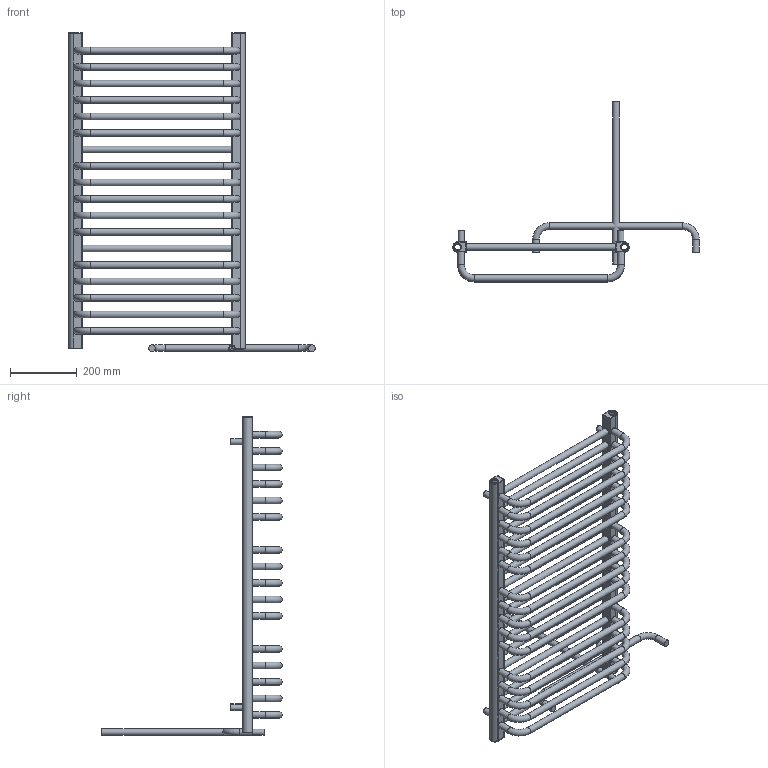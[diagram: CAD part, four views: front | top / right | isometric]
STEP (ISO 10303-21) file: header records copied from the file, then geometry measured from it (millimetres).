
FILE_DESCRIPTION( ( 'Unknown' ), '1' );
FILE_NAME( 'D:/RYSUNKI/RYSUNKI SOLID/SEJWAL/NOWE/2021/MADERA/MADERA.stp', 'Unknown', ( 'Unknown' ), ( 'Unknown' ), 'XStep 1.0', 'Unknown', ' ' );
FILE_SCHEMA( ( 'automotive_design' ) );
Length unit declared in the file: millimetre
Products named in the file (7): Assem1; Profil_glowny_praw; Profil_glowny_lew; Rurka_20x1_2x500_zew; Rurka_20x1_2X450; Dekiel_G1_2; MOCOWANIE
Bounding box: 740 x 541 x 958 mm (x, y, z)
Volume: 4482246.5 mm3; surface area: 2553639.3 mm2
Topology: 50 solids, 50 shells, 446 faces, 1088 edges, 619 vertices
Faces by surface type: cylinder 258, plane 144, torus 44
Full cylindrical faces by diameter (mm): 15 x5, 17.6 x19, 18 x5, 18.631 x5, 20 x211
Entity records: 4486 total; most frequent: DIRECTION 764, CARTESIAN_POINT 635, ORIENTED_EDGE 560, AXIS2_PLACEMENT_3D 325, EDGE_CURVE 280, EDGE_LOOP 278, VERTEX_POINT 196, FACE_OUTER_BOUND 195
